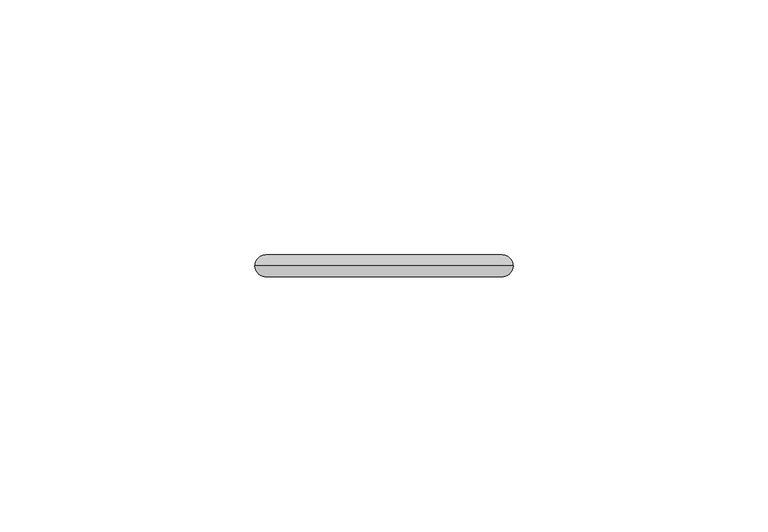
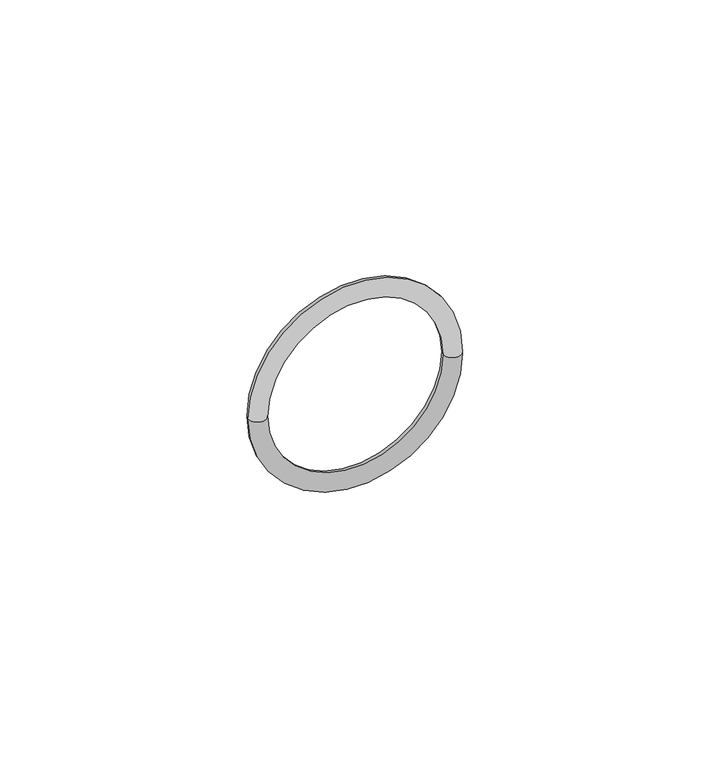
"""IFC4 building model written with IfcOpenShell, lengths in millimetres: pipe fitting geometry, VALTEC_VTi.990.I_Уплотнительное кольцо из FPM : VTi.990.I."""

from ifc_helpers import new_model, si_unit, point, frame, origin, place, context, project, spatial, circle_curve, ellipse_curve, trimmed, source, transform, mapped, element, save
from ifc_brep_helpers import revolved_surface, advanced_brep


def pipe_fitting_619dcd46(model_context):
    return source(origin(), model_context, "Body", "AdvancedBrep", [
        advanced_brep(
        [(21.0, 0.0, 0.0), (-21.0, 0.0, 0.0), (-25.3, 0.0, 0.0), (25.3, 0.0, 0.0)],
        [
            (0, 1, circle_curve(frame((0.0, 0.0, 0.0), z_axis=(0.0, 1.0, 0.0), x_axis=(-1.0, 0.0, 0.0)), 21.0)),
            (1, 2, circle_curve(frame((-23.15, 0.0, 0.0), z_axis=(0.0, 0.0, -1.0), x_axis=(1.0, 0.0, 0.0)), 2.15)),
            (2, 3, circle_curve(frame((0.0, 0.0, 0.0), z_axis=(0.0, -1.0, 0.0), x_axis=(-1.0, 0.0, 0.0)), 25.3)),
            (3, 0, circle_curve(frame((23.15, 0.0, 0.0), z_axis=(0.0, 0.0, -1.0), x_axis=(-1.0, 0.0, 0.0)), 2.15)),
            (1, 0, circle_curve(frame((0.0, 0.0, 0.0), z_axis=(0.0, 1.0, 0.0), x_axis=(-1.0, 0.0, 0.0)), 21.0)),
            (3, 2, circle_curve(frame((0.0, 0.0, 0.0), z_axis=(0.0, -1.0, 0.0), x_axis=(-1.0, 0.0, 0.0)), 25.3)),
            (2, 1, circle_curve(frame((-23.15, 0.0, 0.0), z_axis=(0.0, 0.0, -1.0), x_axis=(1.0, 0.0, 0.0)), 2.15)),
            (0, 3, circle_curve(frame((23.15, 0.0, 0.0), z_axis=(0.0, 0.0, -1.0), x_axis=(-1.0, 0.0, 0.0)), 2.15)),
        ],
        [
            revolved_surface(trimmed(ellipse_curve(frame((-23.15, 0.0, 0.0), z_axis=(0.0, 0.0, 1.0), x_axis=(1.0, 0.0, 0.0)), 2.15, 2.15), [point((-25.3, 0.0, 0.0))], [point((-21.0, 0.0, 0.0))], True, "CARTESIAN"), (0.0, 1.0336847, 0.0), (0.0, -1.0, 0.0)),
            revolved_surface(trimmed(ellipse_curve(frame((-23.15, 0.0, 0.0), z_axis=(0.0, 0.0, 1.0), x_axis=(1.0, 0.0, 0.0)), 2.15, 2.15), [point((-21.0, 0.0, 0.0))], [point((-25.3, 0.0, 0.0))], True, "CARTESIAN"), (0.0, 1.0336847, 0.0), (0.0, -1.0, 0.0)),
        ],
        [
            (0, [[1, 2, 3, 4]]),
            (0, [[5, -4, 6, -2]]),
            (1, [[-3, 7, -1, 8]]),
            (1, [[-6, -8, -5, -7]]),
        ],
    ),
    ])


if __name__ == "__main__":
    model = new_model("IFC4")
    model_context = context("Model", 3, world=origin())
    ifc_project = project(units=[si_unit("LENGTHUNIT", "METRE", prefix="MILLI")], contexts=[model_context])
    site = spatial("IfcSite", under=ifc_project)
    building = spatial("IfcBuilding", under=site)
    placement = place(None, origin())
    pipe_fitting_shape = pipe_fitting_619dcd46(model_context)
    element("IfcPipeFitting", 1, ObjectType="VALTEC_VTi.990.I_Уплотнительное кольцо из FPM : VTi.990.I", at=placement, inside=building, context=model_context, shape_type="MappedRepresentation", body=[
        mapped(pipe_fitting_shape, transform((0.0, 0.0, 0.0), x_axis=(1.0, 0.0, 0.0), y_axis=(0.0, 1.0, 0.0), z_axis=(0.0, 0.0, 1.0))),
    ])
    save(model, "model.ifc")
